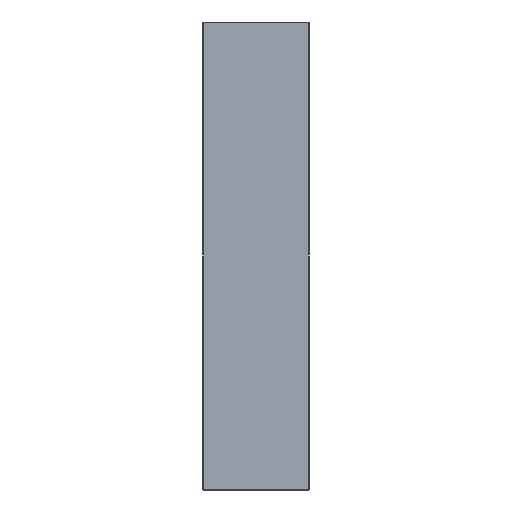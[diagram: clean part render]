
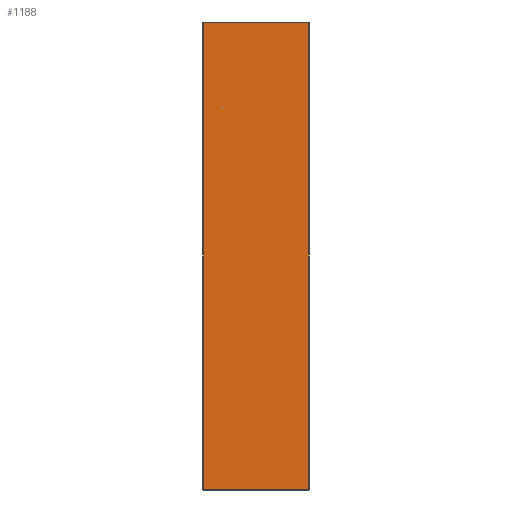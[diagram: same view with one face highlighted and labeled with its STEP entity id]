
A CAD part, left-side view. The second image highlights one B-rep face of the part: STEP entity #1188.
In plain terms, the highlighted planar face has unit normal (-1, 0, 0).
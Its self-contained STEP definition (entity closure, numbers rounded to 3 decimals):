
#65 = VECTOR ( 'NONE', #270, 1000. ) ;
#215 = CARTESIAN_POINT ( 'NONE',  ( -173., 135., 297. ) ) ;
#258 = CARTESIAN_POINT ( 'NONE',  ( -173., 136., -297. ) ) ;
#270 = DIRECTION ( 'NONE',  ( 0., 1., 0. ) ) ;
#276 = VERTEX_POINT ( 'NONE', #703 ) ;
#344 = VECTOR ( 'NONE', #1523, 1000. ) ;
#403 = ORIENTED_EDGE ( 'NONE', *, *, #1322, .T. ) ;
#435 = EDGE_LOOP ( 'NONE', ( #403, #861, #1414, #1282 ) ) ;
#440 = DIRECTION ( 'NONE',  ( 0., 0., 1. ) ) ;
#446 = CARTESIAN_POINT ( 'NONE',  ( -173., 1., 298. ) ) ;
#457 = LINE ( 'NONE', #258, #344 ) ;
#497 = FACE_OUTER_BOUND ( 'NONE', #435, .T. ) ;
#534 = AXIS2_PLACEMENT_3D ( 'NONE', #2117, #1966, #1957 ) ;
#541 = CARTESIAN_POINT ( 'NONE',  ( -173., 136., 297. ) ) ;
#703 = CARTESIAN_POINT ( 'NONE',  ( -173., 135., -297. ) ) ;
#829 = VERTEX_POINT ( 'NONE', #2530 ) ;
#861 = ORIENTED_EDGE ( 'NONE', *, *, #1391, .T. ) ;
#883 = VERTEX_POINT ( 'NONE', #1136 ) ;
#899 = VERTEX_POINT ( 'NONE', #215 ) ;
#1046 = EDGE_CURVE ( 'NONE', #276, #883, #457, .T. ) ;
#1125 = DIRECTION ( 'NONE',  ( 0., 0., -1. ) ) ;
#1136 = CARTESIAN_POINT ( 'NONE',  ( -173., 1., -297. ) ) ;
#1138 = CARTESIAN_POINT ( 'NONE',  ( -173., 135., 298. ) ) ;
#1152 = LINE ( 'NONE', #541, #65 ) ;
#1188 = ADVANCED_FACE ( 'NONE', ( #497 ), #2353, .F. ) ;
#1282 = ORIENTED_EDGE ( 'NONE', *, *, #1615, .T. ) ;
#1322 = EDGE_CURVE ( 'NONE', #829, #899, #1152, .T. ) ;
#1391 = EDGE_CURVE ( 'NONE', #899, #276, #1491, .T. ) ;
#1414 = ORIENTED_EDGE ( 'NONE', *, *, #1046, .T. ) ;
#1491 = LINE ( 'NONE', #1138, #1974 ) ;
#1523 = DIRECTION ( 'NONE',  ( 0., -1., 0. ) ) ;
#1615 = EDGE_CURVE ( 'NONE', #883, #829, #2547, .T. ) ;
#1932 = VECTOR ( 'NONE', #440, 1000. ) ;
#1957 = DIRECTION ( 'NONE',  ( 0., 0., -1. ) ) ;
#1966 = DIRECTION ( 'NONE',  ( 1., 0., 0. ) ) ;
#1974 = VECTOR ( 'NONE', #1125, 1000. ) ;
#2117 = CARTESIAN_POINT ( 'NONE',  ( -173., 136., 298. ) ) ;
#2353 = PLANE ( 'NONE',  #534 ) ;
#2530 = CARTESIAN_POINT ( 'NONE',  ( -173., 1., 297. ) ) ;
#2547 = LINE ( 'NONE', #446, #1932 ) ;
